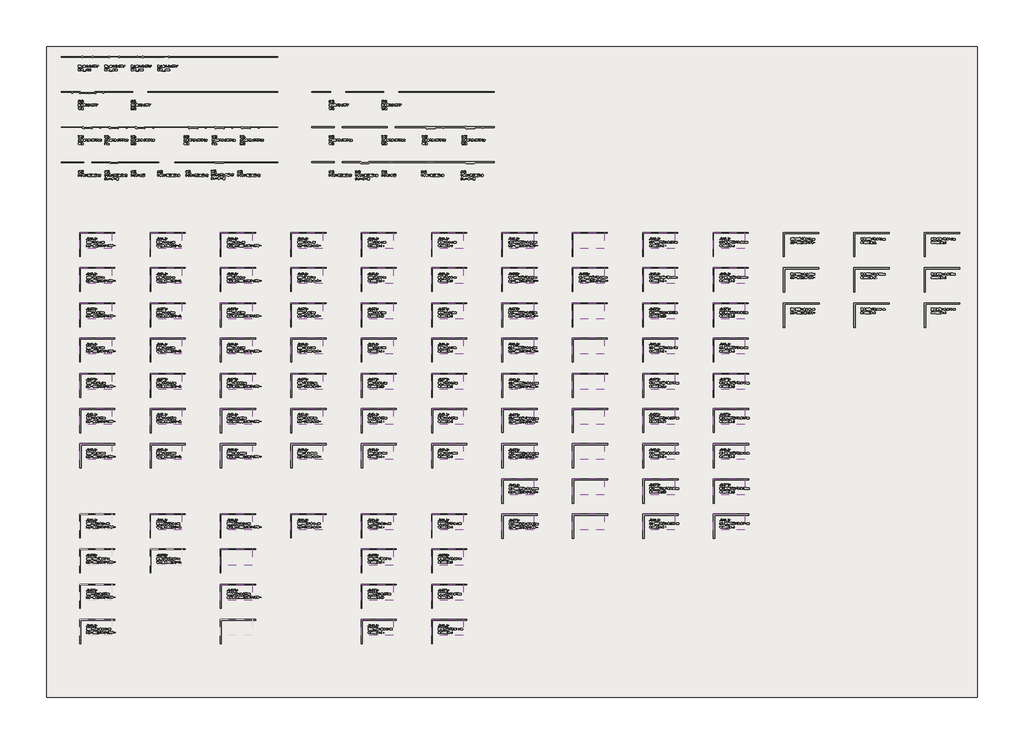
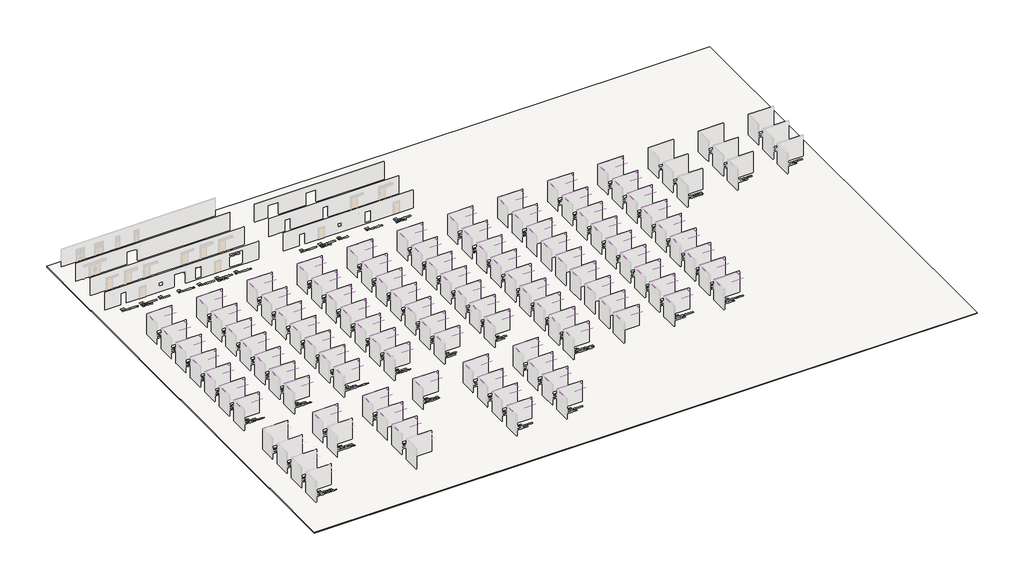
# One storey, part 4 of 117: 91 coverings, 1 slab.
"""IFC4 building model written with IfcOpenShell, lengths in millimetres."""

from ifc_helpers import new_model, si_unit, frame, origin, place, context, project, spatial, polyline, outline, extrude, element, save

model = new_model("IFC4")

# Units and contexts
model_context = context("Model", 3, world=origin())
ifc_project = project(units=[si_unit("LENGTHUNIT", "METRE", prefix="MILLI")], contexts=[model_context])

# Site, building, storey
site = spatial("IfcSite", under=ifc_project)
building = spatial("IfcBuilding", under=site)
storey = spatial("IfcBuildingStorey", under=building, Name="レベル 1", Elevation=500.0)

# Coverings
placement = place(None, origin())
element("IfcCovering", 1, ObjectType="g-p_断熱パネルt44+天井下地材t125_900x2700", at=placement, inside=storey, context=model_context, shape_type="SweptSolid", body=[
    extrude(outline(polyline([(-24000.0, 10178.0), (-24000.0, 12000.0), (-20378.0, 12000.0), (-20378.0, 10178.0), (-24000.0, 10178.0)])), frame((0.0, 0.0, 4000.0), z_axis=(0.0, 0.0, 1.0), x_axis=(1.0, 0.0, 0.0)), (0.0, 0.0, 1.0), 169.0),
])
element("IfcCovering", 2, ObjectType="g-p_断熱パネルt50+天井下地材t125_900x2700", at=placement, inside=storey, context=model_context, shape_type="SweptSolid", body=[
    extrude(outline(polyline([(-24000.0, 6178.0), (-24000.0, 8000.0), (-20378.0, 8000.0), (-20378.0, 6178.0), (-24000.0, 6178.0)])), frame((0.0, 0.0, 4000.0), z_axis=(0.0, 0.0, 1.0), x_axis=(1.0, 0.0, 0.0)), (0.0, 0.0, 1.0), 175.0),
])
element("IfcCovering", 3, ObjectType="g-p_断熱パネルt62+天井下地材t125_900x2700", at=placement, inside=storey, context=model_context, shape_type="SweptSolid", body=[
    extrude(outline(polyline([(-24000.0, 2178.0), (-24000.0, 4000.0), (-20378.0, 4000.0), (-20378.0, 2178.0), (-24000.0, 2178.0)])), frame((0.0, 0.0, 4000.0), z_axis=(0.0, 0.0, 1.0), x_axis=(1.0, 0.0, 0.0)), (0.0, 0.0, 1.0), 187.0),
])
element("IfcCovering", 4, ObjectType="g-p_断熱パネルt77+天井下地材t125_900x2700", at=placement, inside=storey, context=model_context, shape_type="SweptSolid", body=[
    extrude(outline(polyline([(-24000.0, -1822.0), (-24000.0, 0.0), (-20378.0, 0.0), (-20378.0, -1822.0), (-24000.0, -1822.0)])), frame((0.0, 0.0, 4000.0), z_axis=(0.0, 0.0, 1.0), x_axis=(1.0, 0.0, 0.0)), (0.0, 0.0, 1.0), 202.0),
])
element("IfcCovering", 5, ObjectType="g-p_断熱パネルt100+天井下地材t125_900x2700", at=placement, inside=storey, context=model_context, shape_type="SweptSolid", body=[
    extrude(outline(polyline([(-24000.0, -5822.0), (-24000.0, -4000.0), (-20378.0, -4000.0), (-20378.0, -5822.0), (-24000.0, -5822.0)])), frame((0.0, 0.0, 4000.0), z_axis=(0.0, 0.0, 1.0), x_axis=(1.0, 0.0, 0.0)), (0.0, 0.0, 1.0), 225.0),
])
element("IfcCovering", 6, ObjectType="g-p_断熱パネルt127+天井下地材t125_900x2700", at=placement, inside=storey, context=model_context, shape_type="SweptSolid", body=[
    extrude(outline(polyline([(-24000.0, -9822.0), (-24000.0, -8000.0), (-20378.0, -8000.0), (-20378.0, -9822.0), (-24000.0, -9822.0)])), frame((0.0, 0.0, 4000.0), z_axis=(0.0, 0.0, 1.0), x_axis=(1.0, 0.0, 0.0)), (0.0, 0.0, 1.0), 252.0),
])
element("IfcCovering", 7, ObjectType="g-p_断熱パネルt152+天井下地材t125_900x2700", at=placement, inside=storey, context=model_context, shape_type="SweptSolid", body=[
    extrude(outline(polyline([(-24000.0, -13822.0), (-24000.0, -12000.0), (-20378.0, -12000.0), (-20378.0, -13822.0), (-24000.0, -13822.0)])), frame((0.0, 0.0, 4000.0), z_axis=(0.0, 0.0, 1.0), x_axis=(1.0, 0.0, 0.0)), (0.0, 0.0, 1.0), 277.0),
])
element("IfcCovering", 8, ObjectType="g-p_断熱パネルt44+天井下地材t125_900x2700", at=placement, inside=storey, context=model_context, shape_type="SweptSolid", body=[
    extrude(outline(polyline([(-16000.0, 10178.0), (-16000.0, 12000.0), (-12378.0, 12000.0), (-12378.0, 10178.0), (-16000.0, 10178.0)])), frame((0.0, 0.0, 4000.0), z_axis=(0.0, 0.0, 1.0), x_axis=(1.0, 0.0, 0.0)), (0.0, 0.0, 1.0), 169.0),
])
element("IfcCovering", 9, ObjectType="g-p_断熱パネルt50+天井下地材t125_900x2700", at=placement, inside=storey, context=model_context, shape_type="SweptSolid", body=[
    extrude(outline(polyline([(-16000.0, 6178.0), (-16000.0, 8000.0), (-12378.0, 8000.0), (-12378.0, 6178.0), (-16000.0, 6178.0)])), frame((0.0, 0.0, 4000.0), z_axis=(0.0, 0.0, 1.0), x_axis=(1.0, 0.0, 0.0)), (0.0, 0.0, 1.0), 175.0),
])
element("IfcCovering", 10, ObjectType="g-p_断熱パネルt62+天井下地材t125_900x2700", at=placement, inside=storey, context=model_context, shape_type="SweptSolid", body=[
    extrude(outline(polyline([(-16000.0, 2178.0), (-16000.0, 4000.0), (-12378.0, 4000.0), (-12378.0, 2178.0), (-16000.0, 2178.0)])), frame((0.0, 0.0, 4000.0), z_axis=(0.0, 0.0, 1.0), x_axis=(1.0, 0.0, 0.0)), (0.0, 0.0, 1.0), 187.0),
])
element("IfcCovering", 11, ObjectType="g-p_断熱パネルt77+天井下地材t125_900x2700", at=placement, inside=storey, context=model_context, shape_type="SweptSolid", body=[
    extrude(outline(polyline([(-16000.0, -1822.0), (-16000.0, 0.0), (-12378.0, 0.0), (-12378.0, -1822.0), (-16000.0, -1822.0)])), frame((0.0, 0.0, 4000.0), z_axis=(0.0, 0.0, 1.0), x_axis=(1.0, 0.0, 0.0)), (0.0, 0.0, 1.0), 202.0),
])
element("IfcCovering", 12, ObjectType="g-p_断熱パネルt100+天井下地材t125_900x2700", at=placement, inside=storey, context=model_context, shape_type="SweptSolid", body=[
    extrude(outline(polyline([(-16000.0, -5822.0), (-16000.0, -4000.0), (-12378.0, -4000.0), (-12378.0, -5822.0), (-16000.0, -5822.0)])), frame((0.0, 0.0, 4000.0), z_axis=(0.0, 0.0, 1.0), x_axis=(1.0, 0.0, 0.0)), (0.0, 0.0, 1.0), 225.0),
])
element("IfcCovering", 13, ObjectType="g-p_断熱パネルt127+天井下地材t125_900x2700", at=placement, inside=storey, context=model_context, shape_type="SweptSolid", body=[
    extrude(outline(polyline([(-16000.0, -9822.0), (-16000.0, -8000.0), (-12378.0, -8000.0), (-12378.0, -9822.0), (-16000.0, -9822.0)])), frame((0.0, 0.0, 4000.0), z_axis=(0.0, 0.0, 1.0), x_axis=(1.0, 0.0, 0.0)), (0.0, 0.0, 1.0), 252.0),
])
element("IfcCovering", 14, ObjectType="g-p_断熱パネルt152+天井下地材t125_900x2700", at=placement, inside=storey, context=model_context, shape_type="SweptSolid", body=[
    extrude(outline(polyline([(-16000.0, -13822.0), (-16000.0, -12000.0), (-12378.0, -12000.0), (-12378.0, -13822.0), (-16000.0, -13822.0)])), frame((0.0, 0.0, 4000.0), z_axis=(0.0, 0.0, 1.0), x_axis=(1.0, 0.0, 0.0)), (0.0, 0.0, 1.0), 277.0),
])
element("IfcCovering", 15, ObjectType="g-p_不燃断熱パネルt44+天井下地材t125_900x2700", at=placement, inside=storey, context=model_context, shape_type="SweptSolid", body=[
    extrude(outline(polyline([(-16000.0, -21822.0), (-16000.0, -20000.0), (-12378.0, -20000.0), (-12378.0, -21822.0), (-16000.0, -21822.0)])), frame((0.0, 0.0, 4000.0), z_axis=(0.0, 0.0, 1.0), x_axis=(1.0, 0.0, 0.0)), (0.0, 0.0, 1.0), 169.0),
])
element("IfcCovering", 16, ObjectType="g-p_断熱パネルt44+天井下地材t125_900x2700", at=placement, inside=storey, context=model_context, shape_type="SweptSolid", body=[
    extrude(outline(polyline([(-8000.0, 10178.0), (-8000.0, 12000.0), (-4378.0, 12000.0), (-4378.0, 10178.0), (-8000.0, 10178.0)])), frame((0.0, 0.0, 4000.0), z_axis=(0.0, 0.0, 1.0), x_axis=(1.0, 0.0, 0.0)), (0.0, 0.0, 1.0), 169.0),
])
element("IfcCovering", 17, ObjectType="g-p_断熱パネルt50+天井下地材t125_900x2700", at=placement, inside=storey, context=model_context, shape_type="SweptSolid", body=[
    extrude(outline(polyline([(-8000.0, 6178.0), (-8000.0, 8000.0), (-4378.0, 8000.0), (-4378.0, 6178.0), (-8000.0, 6178.0)])), frame((0.0, 0.0, 4000.0), z_axis=(0.0, 0.0, 1.0), x_axis=(1.0, 0.0, 0.0)), (0.0, 0.0, 1.0), 175.0),
])
element("IfcCovering", 18, ObjectType="g-p_断熱パネルt62+天井下地材t125_900x2700", at=placement, inside=storey, context=model_context, shape_type="SweptSolid", body=[
    extrude(outline(polyline([(-8000.0, 2178.0), (-8000.0, 4000.0), (-4378.0, 4000.0), (-4378.0, 2178.0), (-8000.0, 2178.0)])), frame((0.0, 0.0, 4000.0), z_axis=(0.0, 0.0, 1.0), x_axis=(1.0, 0.0, 0.0)), (0.0, 0.0, 1.0), 187.0),
])
element("IfcCovering", 19, ObjectType="g-p_断熱パネルt77+天井下地材t125_900x2700", at=placement, inside=storey, context=model_context, shape_type="SweptSolid", body=[
    extrude(outline(polyline([(-8000.0, -1822.0), (-8000.0, 0.0), (-4378.0, 0.0), (-4378.0, -1822.0), (-8000.0, -1822.0)])), frame((0.0, 0.0, 4000.0), z_axis=(0.0, 0.0, 1.0), x_axis=(1.0, 0.0, 0.0)), (0.0, 0.0, 1.0), 202.0),
])
element("IfcCovering", 20, ObjectType="g-p_断熱パネルt100+天井下地材t125_900x2700", at=placement, inside=storey, context=model_context, shape_type="SweptSolid", body=[
    extrude(outline(polyline([(-8000.0, -5822.0), (-8000.0, -4000.0), (-4378.0, -4000.0), (-4378.0, -5822.0), (-8000.0, -5822.0)])), frame((0.0, 0.0, 4000.0), z_axis=(0.0, 0.0, 1.0), x_axis=(1.0, 0.0, 0.0)), (0.0, 0.0, 1.0), 225.0),
])
element("IfcCovering", 21, ObjectType="g-p_断熱パネルt127+天井下地材t125_900x2700", at=placement, inside=storey, context=model_context, shape_type="SweptSolid", body=[
    extrude(outline(polyline([(-8000.0, -9822.0), (-8000.0, -8000.0), (-4378.0, -8000.0), (-4378.0, -9822.0), (-8000.0, -9822.0)])), frame((0.0, 0.0, 4000.0), z_axis=(0.0, 0.0, 1.0), x_axis=(1.0, 0.0, 0.0)), (0.0, 0.0, 1.0), 252.0),
])
element("IfcCovering", 22, ObjectType="g-p_断熱パネルt152+天井下地材t125_900x2700", at=placement, inside=storey, context=model_context, shape_type="SweptSolid", body=[
    extrude(outline(polyline([(-8000.0, -13822.0), (-8000.0, -12000.0), (-4378.0, -12000.0), (-4378.0, -13822.0), (-8000.0, -13822.0)])), frame((0.0, 0.0, 4000.0), z_axis=(0.0, 0.0, 1.0), x_axis=(1.0, 0.0, 0.0)), (0.0, 0.0, 1.0), 277.0),
])
element("IfcCovering", 23, ObjectType="g-p_不燃断熱パネルt44+天井下地材t125_900x2700", at=placement, inside=storey, context=model_context, shape_type="SweptSolid", body=[
    extrude(outline(polyline([(-8000.0, -21822.0), (-8000.0, -20000.0), (-4378.0, -20000.0), (-4378.0, -21822.0), (-8000.0, -21822.0)])), frame((0.0, 0.0, 4000.0), z_axis=(0.0, 0.0, 1.0), x_axis=(1.0, 0.0, 0.0)), (0.0, 0.0, 1.0), 169.0),
])
element("IfcCovering", 24, ObjectType="g-p_不燃断熱パネルt50+天井下地材t125_900x2700", at=placement, inside=storey, context=model_context, shape_type="SweptSolid", body=[
    extrude(outline(polyline([(-8000.0, -25822.0), (-8000.0, -24000.0), (-4378.0, -24000.0), (-4378.0, -25822.0), (-8000.0, -25822.0)])), frame((0.0, 0.0, 4000.0), z_axis=(0.0, 0.0, 1.0), x_axis=(1.0, 0.0, 0.0)), (0.0, 0.0, 1.0), 175.0),
])
element("IfcCovering", 25, ObjectType="g-p_不燃断熱パネルt77+天井下地材t125_900x2700", at=placement, inside=storey, context=model_context, shape_type="SweptSolid", body=[
    extrude(outline(polyline([(-8000.0, -29822.0), (-8000.0, -28000.0), (-4378.0, -28000.0), (-4378.0, -29822.0), (-8000.0, -29822.0)])), frame((0.0, 0.0, 4000.0), z_axis=(0.0, 0.0, 1.0), x_axis=(1.0, 0.0, 0.0)), (0.0, 0.0, 1.0), 202.0),
])
element("IfcCovering", 26, ObjectType="g-p_断熱パネルt44+天井下地材t125_900x2700", at=placement, inside=storey, context=model_context, shape_type="SweptSolid", body=[
    extrude(outline(polyline([(0.0, 10178.0), (0.0, 12000.0), (3622.0, 12000.0), (3622.0, 10178.0), (0.0, 10178.0)])), frame((0.0, 0.0, 4000.0), z_axis=(0.0, 0.0, 1.0), x_axis=(1.0, 0.0, 0.0)), (0.0, 0.0, 1.0), 169.0),
])
element("IfcCovering", 27, ObjectType="g-p_断熱パネルt50+天井下地材t125_900x2700", at=placement, inside=storey, context=model_context, shape_type="SweptSolid", body=[
    extrude(outline(polyline([(0.0, 6178.0), (0.0, 8000.0), (3622.0, 8000.0), (3622.0, 6178.0), (0.0, 6178.0)])), frame((0.0, 0.0, 4000.0), z_axis=(0.0, 0.0, 1.0), x_axis=(1.0, 0.0, 0.0)), (0.0, 0.0, 1.0), 175.0),
])
element("IfcCovering", 28, ObjectType="g-p_断熱パネルt62+天井下地材t125_900x2700", at=placement, inside=storey, context=model_context, shape_type="SweptSolid", body=[
    extrude(outline(polyline([(0.0, 2178.0), (0.0, 4000.0), (3622.0, 4000.0), (3622.0, 2178.0), (0.0, 2178.0)])), frame((0.0, 0.0, 4000.0), z_axis=(0.0, 0.0, 1.0), x_axis=(1.0, 0.0, 0.0)), (0.0, 0.0, 1.0), 187.0),
])
element("IfcCovering", 29, ObjectType="g-p_断熱パネルt77+天井下地材t125_900x2700", at=placement, inside=storey, context=model_context, shape_type="SweptSolid", body=[
    extrude(outline(polyline([(0.0, -1822.0), (0.0, 0.0), (3622.0, 0.0), (3622.0, -1822.0), (0.0, -1822.0)])), frame((0.0, 0.0, 4000.0), z_axis=(0.0, 0.0, 1.0), x_axis=(1.0, 0.0, 0.0)), (0.0, 0.0, 1.0), 202.0),
])
element("IfcCovering", 30, ObjectType="g-p_断熱パネルt100+天井下地材t125_900x2700", at=placement, inside=storey, context=model_context, shape_type="SweptSolid", body=[
    extrude(outline(polyline([(0.0, -5822.0), (0.0, -4000.0), (3622.0, -4000.0), (3622.0, -5822.0), (0.0, -5822.0)])), frame((0.0, 0.0, 4000.0), z_axis=(0.0, 0.0, 1.0), x_axis=(1.0, 0.0, 0.0)), (0.0, 0.0, 1.0), 225.0),
])
element("IfcCovering", 31, ObjectType="g-p_断熱パネルt127+天井下地材t125_900x2700", at=placement, inside=storey, context=model_context, shape_type="SweptSolid", body=[
    extrude(outline(polyline([(0.0, -9822.0), (0.0, -8000.0), (3622.0, -8000.0), (3622.0, -9822.0), (0.0, -9822.0)])), frame((0.0, 0.0, 4000.0), z_axis=(0.0, 0.0, 1.0), x_axis=(1.0, 0.0, 0.0)), (0.0, 0.0, 1.0), 252.0),
])
element("IfcCovering", 32, ObjectType="g-p_断熱パネルt152+天井下地材t125_900x2700", at=placement, inside=storey, context=model_context, shape_type="SweptSolid", body=[
    extrude(outline(polyline([(0.0, -13822.0), (0.0, -12000.0), (3622.0, -12000.0), (3622.0, -13822.0), (0.0, -13822.0)])), frame((0.0, 0.0, 4000.0), z_axis=(0.0, 0.0, 1.0), x_axis=(1.0, 0.0, 0.0)), (0.0, 0.0, 1.0), 277.0),
])
element("IfcCovering", 33, ObjectType="g-p_不燃断熱パネルt44+天井下地材t125_900x2700", at=placement, inside=storey, context=model_context, shape_type="SweptSolid", body=[
    extrude(outline(polyline([(0.0, -21822.0), (0.0, -20000.0), (3622.0, -20000.0), (3622.0, -21822.0), (0.0, -21822.0)])), frame((0.0, 0.0, 4000.0), z_axis=(0.0, 0.0, 1.0), x_axis=(1.0, 0.0, 0.0)), (0.0, 0.0, 1.0), 169.0),
])
element("IfcCovering", 34, ObjectType="g-p_断熱パネルt44+天井下地材t125_900x2700", at=placement, inside=storey, context=model_context, shape_type="SweptSolid", body=[
    extrude(outline(polyline([(8000.0, 10178.0), (8000.0, 12000.0), (11622.0, 12000.0), (11622.0, 10178.0), (8000.0, 10178.0)])), frame((0.0, 0.0, 4000.0), z_axis=(0.0, 0.0, 1.0), x_axis=(1.0, 0.0, 0.0)), (0.0, 0.0, 1.0), 169.0),
])
element("IfcCovering", 35, ObjectType="g-p_断熱パネルt50+天井下地材t125_900x2700", at=placement, inside=storey, context=model_context, shape_type="SweptSolid", body=[
    extrude(outline(polyline([(8000.0, 6178.0), (8000.0, 8000.0), (11622.0, 8000.0), (11622.0, 6178.0), (8000.0, 6178.0)])), frame((0.0, 0.0, 4000.0), z_axis=(0.0, 0.0, 1.0), x_axis=(1.0, 0.0, 0.0)), (0.0, 0.0, 1.0), 175.0),
])
element("IfcCovering", 36, ObjectType="g-p_断熱パネルt62+天井下地材t125_900x2700", at=placement, inside=storey, context=model_context, shape_type="SweptSolid", body=[
    extrude(outline(polyline([(8000.0, 2178.0), (8000.0, 4000.0), (11622.0, 4000.0), (11622.0, 2178.0), (8000.0, 2178.0)])), frame((0.0, 0.0, 4000.0), z_axis=(0.0, 0.0, 1.0), x_axis=(1.0, 0.0, 0.0)), (0.0, 0.0, 1.0), 187.0),
])
element("IfcCovering", 37, ObjectType="g-p_断熱パネルt77+天井下地材t125_900x2700", at=placement, inside=storey, context=model_context, shape_type="SweptSolid", body=[
    extrude(outline(polyline([(8000.0, -1822.0), (8000.0, 0.0), (11622.0, 0.0), (11622.0, -1822.0), (8000.0, -1822.0)])), frame((0.0, 0.0, 4000.0), z_axis=(0.0, 0.0, 1.0), x_axis=(1.0, 0.0, 0.0)), (0.0, 0.0, 1.0), 202.0),
])
element("IfcCovering", 38, ObjectType="g-p_断熱パネルt100+天井下地材t125_900x2700", at=placement, inside=storey, context=model_context, shape_type="SweptSolid", body=[
    extrude(outline(polyline([(8000.0, -5822.0), (8000.0, -4000.0), (11622.0, -4000.0), (11622.0, -5822.0), (8000.0, -5822.0)])), frame((0.0, 0.0, 4000.0), z_axis=(0.0, 0.0, 1.0), x_axis=(1.0, 0.0, 0.0)), (0.0, 0.0, 1.0), 225.0),
])
element("IfcCovering", 39, ObjectType="g-p_断熱パネルt127+天井下地材t125_900x2700", at=placement, inside=storey, context=model_context, shape_type="SweptSolid", body=[
    extrude(outline(polyline([(8000.0, -9822.0), (8000.0, -8000.0), (11622.0, -8000.0), (11622.0, -9822.0), (8000.0, -9822.0)])), frame((0.0, 0.0, 4000.0), z_axis=(0.0, 0.0, 1.0), x_axis=(1.0, 0.0, 0.0)), (0.0, 0.0, 1.0), 252.0),
])
element("IfcCovering", 40, ObjectType="g-p_断熱パネルt152+天井下地材t125_900x2700", at=placement, inside=storey, context=model_context, shape_type="SweptSolid", body=[
    extrude(outline(polyline([(8000.0, -13822.0), (8000.0, -12000.0), (11622.0, -12000.0), (11622.0, -13822.0), (8000.0, -13822.0)])), frame((0.0, 0.0, 4000.0), z_axis=(0.0, 0.0, 1.0), x_axis=(1.0, 0.0, 0.0)), (0.0, 0.0, 1.0), 277.0),
])
element("IfcCovering", 41, ObjectType="g-p_不燃断熱パネルt44+天井下地材t125_900x2700", at=placement, inside=storey, context=model_context, shape_type="SweptSolid", body=[
    extrude(outline(polyline([(8000.0, -21822.0), (8000.0, -20000.0), (11622.0, -20000.0), (11622.0, -21822.0), (8000.0, -21822.0)])), frame((0.0, 0.0, 4000.0), z_axis=(0.0, 0.0, 1.0), x_axis=(1.0, 0.0, 0.0)), (0.0, 0.0, 1.0), 169.0),
])
element("IfcCovering", 42, ObjectType="g-p_不燃断熱パネルt50+天井下地材t125_900x2700", at=placement, inside=storey, context=model_context, shape_type="SweptSolid", body=[
    extrude(outline(polyline([(8000.0, -25822.0), (8000.0, -24000.0), (11622.0, -24000.0), (11622.0, -25822.0), (8000.0, -25822.0)])), frame((0.0, 0.0, 4000.0), z_axis=(0.0, 0.0, 1.0), x_axis=(1.0, 0.0, 0.0)), (0.0, 0.0, 1.0), 175.0),
])
element("IfcCovering", 43, ObjectType="g-p_不燃断熱パネルt77+天井下地材t125_900x2700", at=placement, inside=storey, context=model_context, shape_type="SweptSolid", body=[
    extrude(outline(polyline([(8000.0, -29822.0), (8000.0, -28000.0), (11622.0, -28000.0), (11622.0, -29822.0), (8000.0, -29822.0)])), frame((0.0, 0.0, 4000.0), z_axis=(0.0, 0.0, 1.0), x_axis=(1.0, 0.0, 0.0)), (0.0, 0.0, 1.0), 202.0),
])
element("IfcCovering", 44, ObjectType="g-p_不燃断熱パネルt100+天井下地材t125_900x2700", at=placement, inside=storey, context=model_context, shape_type="SweptSolid", body=[
    extrude(outline(polyline([(8000.0, -33822.0), (8000.0, -32000.0), (11622.0, -32000.0), (11622.0, -33822.0), (8000.0, -33822.0)])), frame((0.0, 0.0, 4000.0), z_axis=(0.0, 0.0, 1.0), x_axis=(1.0, 0.0, 0.0)), (0.0, 0.0, 1.0), 225.0),
])
element("IfcCovering", 45, ObjectType="g-p_断熱パネルt44+天井下地材t125_900x2700", at=placement, inside=storey, context=model_context, shape_type="SweptSolid", body=[
    extrude(outline(polyline([(16000.0, 10178.0), (16000.0, 12000.0), (19622.0, 12000.0), (19622.0, 10178.0), (16000.0, 10178.0)])), frame((0.0, 0.0, 4000.0), z_axis=(0.0, 0.0, 1.0), x_axis=(1.0, 0.0, 0.0)), (0.0, 0.0, 1.0), 169.0),
])
element("IfcCovering", 46, ObjectType="g-p_断熱パネルt50+天井下地材t125_900x2700", at=placement, inside=storey, context=model_context, shape_type="SweptSolid", body=[
    extrude(outline(polyline([(16000.0, 6178.0), (16000.0, 8000.0), (19622.0, 8000.0), (19622.0, 6178.0), (16000.0, 6178.0)])), frame((0.0, 0.0, 4000.0), z_axis=(0.0, 0.0, 1.0), x_axis=(1.0, 0.0, 0.0)), (0.0, 0.0, 1.0), 175.0),
])
element("IfcCovering", 47, ObjectType="g-p_断熱パネルt62+天井下地材t125_900x2700", at=placement, inside=storey, context=model_context, shape_type="SweptSolid", body=[
    extrude(outline(polyline([(16000.0, 2178.0), (16000.0, 4000.0), (19622.0, 4000.0), (19622.0, 2178.0), (16000.0, 2178.0)])), frame((0.0, 0.0, 4000.0), z_axis=(0.0, 0.0, 1.0), x_axis=(1.0, 0.0, 0.0)), (0.0, 0.0, 1.0), 187.0),
])
element("IfcCovering", 48, ObjectType="g-p_断熱パネルt77+天井下地材t125_900x2700", at=placement, inside=storey, context=model_context, shape_type="SweptSolid", body=[
    extrude(outline(polyline([(16000.0, -1822.0), (16000.0, 0.0), (19622.0, 0.0), (19622.0, -1822.0), (16000.0, -1822.0)])), frame((0.0, 0.0, 4000.0), z_axis=(0.0, 0.0, 1.0), x_axis=(1.0, 0.0, 0.0)), (0.0, 0.0, 1.0), 202.0),
])
element("IfcCovering", 49, ObjectType="g-p_断熱パネルt100+天井下地材t125_900x2700", at=placement, inside=storey, context=model_context, shape_type="SweptSolid", body=[
    extrude(outline(polyline([(16000.0, -5822.0), (16000.0, -4000.0), (19622.0, -4000.0), (19622.0, -5822.0), (16000.0, -5822.0)])), frame((0.0, 0.0, 4000.0), z_axis=(0.0, 0.0, 1.0), x_axis=(1.0, 0.0, 0.0)), (0.0, 0.0, 1.0), 225.0),
])
element("IfcCovering", 50, ObjectType="g-p_断熱パネルt127+天井下地材t125_900x2700", at=placement, inside=storey, context=model_context, shape_type="SweptSolid", body=[
    extrude(outline(polyline([(16000.0, -9822.0), (16000.0, -8000.0), (19622.0, -8000.0), (19622.0, -9822.0), (16000.0, -9822.0)])), frame((0.0, 0.0, 4000.0), z_axis=(0.0, 0.0, 1.0), x_axis=(1.0, 0.0, 0.0)), (0.0, 0.0, 1.0), 252.0),
])
element("IfcCovering", 51, ObjectType="g-p_断熱パネルt152+天井下地材t125_900x2700", at=placement, inside=storey, context=model_context, shape_type="SweptSolid", body=[
    extrude(outline(polyline([(16000.0, -13822.0), (16000.0, -12000.0), (19622.0, -12000.0), (19622.0, -13822.0), (16000.0, -13822.0)])), frame((0.0, 0.0, 4000.0), z_axis=(0.0, 0.0, 1.0), x_axis=(1.0, 0.0, 0.0)), (0.0, 0.0, 1.0), 277.0),
])
element("IfcCovering", 52, ObjectType="g-p_不燃断熱パネルt44+天井下地材t125_900x2700", at=placement, inside=storey, context=model_context, shape_type="SweptSolid", body=[
    extrude(outline(polyline([(16000.0, -21822.0), (16000.0, -20000.0), (19622.0, -20000.0), (19622.0, -21822.0), (16000.0, -21822.0)])), frame((0.0, 0.0, 4000.0), z_axis=(0.0, 0.0, 1.0), x_axis=(1.0, 0.0, 0.0)), (0.0, 0.0, 1.0), 169.0),
])
element("IfcCovering", 53, ObjectType="g-p_不燃断熱パネルt50+天井下地材t125_900x2700", at=placement, inside=storey, context=model_context, shape_type="SweptSolid", body=[
    extrude(outline(polyline([(16000.0, -25822.0), (16000.0, -24000.0), (19622.0, -24000.0), (19622.0, -25822.0), (16000.0, -25822.0)])), frame((0.0, 0.0, 4000.0), z_axis=(0.0, 0.0, 1.0), x_axis=(1.0, 0.0, 0.0)), (0.0, 0.0, 1.0), 175.0),
])
element("IfcCovering", 54, ObjectType="g-p_不燃断熱パネルt77+天井下地材t125_900x2700", at=placement, inside=storey, context=model_context, shape_type="SweptSolid", body=[
    extrude(outline(polyline([(16000.0, -29822.0), (16000.0, -28000.0), (19622.0, -28000.0), (19622.0, -29822.0), (16000.0, -29822.0)])), frame((0.0, 0.0, 4000.0), z_axis=(0.0, 0.0, 1.0), x_axis=(1.0, 0.0, 0.0)), (0.0, 0.0, 1.0), 202.0),
])
element("IfcCovering", 55, ObjectType="g-p_不燃断熱パネルt100+天井下地材t125_900x2700", at=placement, inside=storey, context=model_context, shape_type="SweptSolid", body=[
    extrude(outline(polyline([(16000.0, -33822.0), (16000.0, -32000.0), (19622.0, -32000.0), (19622.0, -33822.0), (16000.0, -33822.0)])), frame((0.0, 0.0, 4000.0), z_axis=(0.0, 0.0, 1.0), x_axis=(1.0, 0.0, 0.0)), (0.0, 0.0, 1.0), 225.0),
])
element("IfcCovering", 56, ObjectType="g-p_ECO不燃断熱パネルt52+天井下地材t125_900x2700", at=placement, inside=storey, context=model_context, shape_type="SweptSolid", body=[
    extrude(outline(polyline([(24000.0, 6178.0), (24000.0, 8000.0), (27622.0, 8000.0), (27622.0, 6178.0), (24000.0, 6178.0)])), frame((0.0, 0.0, 4000.0), z_axis=(0.0, 0.0, 1.0), x_axis=(1.0, 0.0, 0.0)), (0.0, 0.0, 1.0), 177.0),
])
element("IfcCovering", 57, ObjectType="g-p_ECO不燃断熱パネルt68+天井下地材t125_900x2700", at=placement, inside=storey, context=model_context, shape_type="SweptSolid", body=[
    extrude(outline(polyline([(24000.0, 2178.0), (24000.0, 4000.0), (27622.0, 4000.0), (27622.0, 2178.0), (24000.0, 2178.0)])), frame((0.0, 0.0, 4000.0), z_axis=(0.0, 0.0, 1.0), x_axis=(1.0, 0.0, 0.0)), (0.0, 0.0, 1.0), 193.0),
])
element("IfcCovering", 58, ObjectType="g-p_ECO不燃断熱パネルt87+天井下地材t125_900x2700", at=placement, inside=storey, context=model_context, shape_type="SweptSolid", body=[
    extrude(outline(polyline([(24000.0, -1822.0), (24000.0, 0.0), (27622.0, 0.0), (27622.0, -1822.0), (24000.0, -1822.0)])), frame((0.0, 0.0, 4000.0), z_axis=(0.0, 0.0, 1.0), x_axis=(1.0, 0.0, 0.0)), (0.0, 0.0, 1.0), 212.0),
])
element("IfcCovering", 59, ObjectType="g-p_ECO不燃断熱パネルt102+天井下地材t125_900x2700", at=placement, inside=storey, context=model_context, shape_type="SweptSolid", body=[
    extrude(outline(polyline([(24000.0, -5822.0), (24000.0, -4000.0), (27622.0, -4000.0), (27622.0, -5822.0), (24000.0, -5822.0)])), frame((0.0, 0.0, 4000.0), z_axis=(0.0, 0.0, 1.0), x_axis=(1.0, 0.0, 0.0)), (0.0, 0.0, 1.0), 227.0),
])
element("IfcCovering", 60, ObjectType="g-p_ECO不燃断熱パネルt118+天井下地材t125_900x2700", at=placement, inside=storey, context=model_context, shape_type="SweptSolid", body=[
    extrude(outline(polyline([(24000.0, -9822.0), (24000.0, -8000.0), (27622.0, -8000.0), (27622.0, -9822.0), (24000.0, -9822.0)])), frame((0.0, 0.0, 4000.0), z_axis=(0.0, 0.0, 1.0), x_axis=(1.0, 0.0, 0.0)), (0.0, 0.0, 1.0), 243.0),
])
element("IfcCovering", 61, ObjectType="g-p_ECO不燃断熱パネルt134+天井下地材t125_900x2700", at=placement, inside=storey, context=model_context, shape_type="SweptSolid", body=[
    extrude(outline(polyline([(24000.0, -13822.0), (24000.0, -12000.0), (27622.0, -12000.0), (27622.0, -13822.0), (24000.0, -13822.0)])), frame((0.0, 0.0, 4000.0), z_axis=(0.0, 0.0, 1.0), x_axis=(1.0, 0.0, 0.0)), (0.0, 0.0, 1.0), 259.0),
])
element("IfcCovering", 62, ObjectType="g-p_ECO不燃断熱パネルt152+天井下地材t125_900x2700", at=placement, inside=storey, context=model_context, shape_type="SweptSolid", body=[
    extrude(outline(polyline([(24000.0, -17822.0), (24000.0, -16000.0), (27622.0, -16000.0), (27622.0, -17822.0), (24000.0, -17822.0)])), frame((0.0, 0.0, 4000.0), z_axis=(0.0, 0.0, 1.0), x_axis=(1.0, 0.0, 0.0)), (0.0, 0.0, 1.0), 277.0),
])
element("IfcCovering", 63, ObjectType="g-p_ECO不燃断熱パネルt168+天井下地材t125_900x2700", at=placement, inside=storey, context=model_context, shape_type="SweptSolid", body=[
    extrude(outline(polyline([(24000.0, -21822.0), (24000.0, -20000.0), (27622.0, -20000.0), (27622.0, -21822.0), (24000.0, -21822.0)])), frame((0.0, 0.0, 4000.0), z_axis=(0.0, 0.0, 1.0), x_axis=(1.0, 0.0, 0.0)), (0.0, 0.0, 1.0), 293.0),
])
element("IfcCovering", 64, ObjectType="g-p_ECO不燃断熱パネルt52+天井下地材t125_900x2700", at=placement, inside=storey, context=model_context, shape_type="SweptSolid", body=[
    extrude(outline(polyline([(24000.0, 10178.0), (24000.0, 12000.0), (27622.0, 12000.0), (27622.0, 10178.0), (24000.0, 10178.0)])), frame((0.0, 0.0, 4000.0), z_axis=(0.0, 0.0, 1.0), x_axis=(1.0, 0.0, 0.0)), (0.0, 0.0, 1.0), 177.0),
])
element("IfcCovering", 65, ObjectType="g-p_ECO不燃断熱パネルt52+天井下地材t125_900x2700", at=placement, inside=storey, context=model_context, shape_type="SweptSolid", body=[
    extrude(outline(polyline([(32000.0, 6178.0), (32000.0, 8000.0), (35622.0, 8000.0), (35622.0, 6178.0), (32000.0, 6178.0)])), frame((0.0, 0.0, 4000.0), z_axis=(0.0, 0.0, 1.0), x_axis=(1.0, 0.0, 0.0)), (0.0, 0.0, 1.0), 177.0),
])
element("IfcCovering", 66, ObjectType="g-p_ECO不燃断熱パネルt68+天井下地材t125_900x2700", at=placement, inside=storey, context=model_context, shape_type="SweptSolid", body=[
    extrude(outline(polyline([(32000.0, 2178.0), (32000.0, 4000.0), (35622.0, 4000.0), (35622.0, 2178.0), (32000.0, 2178.0)])), frame((0.0, 0.0, 4000.0), z_axis=(0.0, 0.0, 1.0), x_axis=(1.0, 0.0, 0.0)), (0.0, 0.0, 1.0), 193.0),
])
element("IfcCovering", 67, ObjectType="g-p_ECO不燃断熱パネルt87+天井下地材t125_900x2700", at=placement, inside=storey, context=model_context, shape_type="SweptSolid", body=[
    extrude(outline(polyline([(32000.0, -1822.0), (32000.0, 0.0), (35622.0, 0.0), (35622.0, -1822.0), (32000.0, -1822.0)])), frame((0.0, 0.0, 4000.0), z_axis=(0.0, 0.0, 1.0), x_axis=(1.0, 0.0, 0.0)), (0.0, 0.0, 1.0), 212.0),
])
element("IfcCovering", 68, ObjectType="g-p_ECO不燃断熱パネルt102+天井下地材t125_900x2700", at=placement, inside=storey, context=model_context, shape_type="SweptSolid", body=[
    extrude(outline(polyline([(32000.0, -5822.0), (32000.0, -4000.0), (35622.0, -4000.0), (35622.0, -5822.0), (32000.0, -5822.0)])), frame((0.0, 0.0, 4000.0), z_axis=(0.0, 0.0, 1.0), x_axis=(1.0, 0.0, 0.0)), (0.0, 0.0, 1.0), 227.0),
])
element("IfcCovering", 69, ObjectType="g-p_ECO不燃断熱パネルt118+天井下地材t125_900x2700", at=placement, inside=storey, context=model_context, shape_type="SweptSolid", body=[
    extrude(outline(polyline([(32000.0, -9822.0), (32000.0, -8000.0), (35622.0, -8000.0), (35622.0, -9822.0), (32000.0, -9822.0)])), frame((0.0, 0.0, 4000.0), z_axis=(0.0, 0.0, 1.0), x_axis=(1.0, 0.0, 0.0)), (0.0, 0.0, 1.0), 243.0),
])
element("IfcCovering", 70, ObjectType="g-p_ECO不燃断熱パネルt134+天井下地材t125_900x2700", at=placement, inside=storey, context=model_context, shape_type="SweptSolid", body=[
    extrude(outline(polyline([(32000.0, -13822.0), (32000.0, -12000.0), (35622.0, -12000.0), (35622.0, -13822.0), (32000.0, -13822.0)])), frame((0.0, 0.0, 4000.0), z_axis=(0.0, 0.0, 1.0), x_axis=(1.0, 0.0, 0.0)), (0.0, 0.0, 1.0), 259.0),
])
element("IfcCovering", 71, ObjectType="g-p_ECO不燃断熱パネルt152+天井下地材t125_900x2700", at=placement, inside=storey, context=model_context, shape_type="SweptSolid", body=[
    extrude(outline(polyline([(32000.0, -17822.0), (32000.0, -16000.0), (35622.0, -16000.0), (35622.0, -17822.0), (32000.0, -17822.0)])), frame((0.0, 0.0, 4000.0), z_axis=(0.0, 0.0, 1.0), x_axis=(1.0, 0.0, 0.0)), (0.0, 0.0, 1.0), 277.0),
])
element("IfcCovering", 72, ObjectType="g-p_ECO不燃断熱パネルt168+天井下地材t125_900x2700", at=placement, inside=storey, context=model_context, shape_type="SweptSolid", body=[
    extrude(outline(polyline([(32000.0, -21822.0), (32000.0, -20000.0), (35622.0, -20000.0), (35622.0, -21822.0), (32000.0, -21822.0)])), frame((0.0, 0.0, 4000.0), z_axis=(0.0, 0.0, 1.0), x_axis=(1.0, 0.0, 0.0)), (0.0, 0.0, 1.0), 293.0),
])
element("IfcCovering", 73, ObjectType="g-p_ECO不燃断熱パネルt52+天井下地材t125_900x2700", at=placement, inside=storey, context=model_context, shape_type="SweptSolid", body=[
    extrude(outline(polyline([(32000.0, 10178.0), (32000.0, 12000.0), (35622.0, 12000.0), (35622.0, 10178.0), (32000.0, 10178.0)])), frame((0.0, 0.0, 4000.0), z_axis=(0.0, 0.0, 1.0), x_axis=(1.0, 0.0, 0.0)), (0.0, 0.0, 1.0), 177.0),
])
element("IfcCovering", 74, ObjectType="g-p_ECO不燃断熱パネルt52+天井下地材t125_900x2700", at=placement, inside=storey, context=model_context, shape_type="SweptSolid", body=[
    extrude(outline(polyline([(40000.0, 6178.0), (40000.0, 8000.0), (43622.0, 8000.0), (43622.0, 6178.0), (40000.0, 6178.0)])), frame((0.0, 0.0, 4000.0), z_axis=(0.0, 0.0, 1.0), x_axis=(1.0, 0.0, 0.0)), (0.0, 0.0, 1.0), 177.0),
])
element("IfcCovering", 75, ObjectType="g-p_ECO不燃断熱パネルt68+天井下地材t125_900x2700", at=placement, inside=storey, context=model_context, shape_type="SweptSolid", body=[
    extrude(outline(polyline([(40000.0, 2178.0), (40000.0, 4000.0), (43622.0, 4000.0), (43622.0, 2178.0), (40000.0, 2178.0)])), frame((0.0, 0.0, 4000.0), z_axis=(0.0, 0.0, 1.0), x_axis=(1.0, 0.0, 0.0)), (0.0, 0.0, 1.0), 193.0),
])
element("IfcCovering", 76, ObjectType="g-p_ECO不燃断熱パネルt87+天井下地材t125_900x2700", at=placement, inside=storey, context=model_context, shape_type="SweptSolid", body=[
    extrude(outline(polyline([(40000.0, -1822.0), (40000.0, 0.0), (43622.0, 0.0), (43622.0, -1822.0), (40000.0, -1822.0)])), frame((0.0, 0.0, 4000.0), z_axis=(0.0, 0.0, 1.0), x_axis=(1.0, 0.0, 0.0)), (0.0, 0.0, 1.0), 212.0),
])
element("IfcCovering", 77, ObjectType="g-p_ECO不燃断熱パネルt102+天井下地材t125_900x2700", at=placement, inside=storey, context=model_context, shape_type="SweptSolid", body=[
    extrude(outline(polyline([(40000.0, -5822.0), (40000.0, -4000.0), (43622.0, -4000.0), (43622.0, -5822.0), (40000.0, -5822.0)])), frame((0.0, 0.0, 4000.0), z_axis=(0.0, 0.0, 1.0), x_axis=(1.0, 0.0, 0.0)), (0.0, 0.0, 1.0), 227.0),
])
element("IfcCovering", 78, ObjectType="g-p_ECO不燃断熱パネルt118+天井下地材t125_900x2700", at=placement, inside=storey, context=model_context, shape_type="SweptSolid", body=[
    extrude(outline(polyline([(40000.0, -9822.0), (40000.0, -8000.0), (43622.0, -8000.0), (43622.0, -9822.0), (40000.0, -9822.0)])), frame((0.0, 0.0, 4000.0), z_axis=(0.0, 0.0, 1.0), x_axis=(1.0, 0.0, 0.0)), (0.0, 0.0, 1.0), 243.0),
])
element("IfcCovering", 79, ObjectType="g-p_ECO不燃断熱パネルt134+天井下地材t125_900x2700", at=placement, inside=storey, context=model_context, shape_type="SweptSolid", body=[
    extrude(outline(polyline([(40000.0, -13822.0), (40000.0, -12000.0), (43622.0, -12000.0), (43622.0, -13822.0), (40000.0, -13822.0)])), frame((0.0, 0.0, 4000.0), z_axis=(0.0, 0.0, 1.0), x_axis=(1.0, 0.0, 0.0)), (0.0, 0.0, 1.0), 259.0),
])
element("IfcCovering", 80, ObjectType="g-p_ECO不燃断熱パネルt152+天井下地材t125_900x2700", at=placement, inside=storey, context=model_context, shape_type="SweptSolid", body=[
    extrude(outline(polyline([(40000.0, -17822.0), (40000.0, -16000.0), (43622.0, -16000.0), (43622.0, -17822.0), (40000.0, -17822.0)])), frame((0.0, 0.0, 4000.0), z_axis=(0.0, 0.0, 1.0), x_axis=(1.0, 0.0, 0.0)), (0.0, 0.0, 1.0), 277.0),
])
element("IfcCovering", 81, ObjectType="g-p_ECO不燃断熱パネルt168+天井下地材t125_900x2700", at=placement, inside=storey, context=model_context, shape_type="SweptSolid", body=[
    extrude(outline(polyline([(40000.0, -21822.0), (40000.0, -20000.0), (43622.0, -20000.0), (43622.0, -21822.0), (40000.0, -21822.0)])), frame((0.0, 0.0, 4000.0), z_axis=(0.0, 0.0, 1.0), x_axis=(1.0, 0.0, 0.0)), (0.0, 0.0, 1.0), 293.0),
])
element("IfcCovering", 82, ObjectType="g-p_ECO不燃断熱パネルt52+天井下地材t125_900x2700", at=placement, inside=storey, context=model_context, shape_type="SweptSolid", body=[
    extrude(outline(polyline([(40000.0, 10178.0), (40000.0, 12000.0), (43622.0, 12000.0), (43622.0, 10178.0), (40000.0, 10178.0)])), frame((0.0, 0.0, 4000.0), z_axis=(0.0, 0.0, 1.0), x_axis=(1.0, 0.0, 0.0)), (0.0, 0.0, 1.0), 177.0),
])
element("IfcCovering", 83, ObjectType="g-p_ECO不燃断熱パネルt52+天井下地材t125_900x2700", at=placement, inside=storey, context=model_context, shape_type="SweptSolid", body=[
    extrude(outline(polyline([(48000.0, 6178.0), (48000.0, 8000.0), (51622.0, 8000.0), (51622.0, 6178.0), (48000.0, 6178.0)])), frame((0.0, 0.0, 4000.0), z_axis=(0.0, 0.0, 1.0), x_axis=(1.0, 0.0, 0.0)), (0.0, 0.0, 1.0), 177.0),
])
element("IfcCovering", 84, ObjectType="g-p_ECO不燃断熱パネルt68+天井下地材t125_900x2700", at=placement, inside=storey, context=model_context, shape_type="SweptSolid", body=[
    extrude(outline(polyline([(48000.0, 2178.0), (48000.0, 4000.0), (51622.0, 4000.0), (51622.0, 2178.0), (48000.0, 2178.0)])), frame((0.0, 0.0, 4000.0), z_axis=(0.0, 0.0, 1.0), x_axis=(1.0, 0.0, 0.0)), (0.0, 0.0, 1.0), 193.0),
])
element("IfcCovering", 85, ObjectType="g-p_ECO不燃断熱パネルt87+天井下地材t125_900x2700", at=placement, inside=storey, context=model_context, shape_type="SweptSolid", body=[
    extrude(outline(polyline([(48000.0, -1822.0), (48000.0, 0.0), (51622.0, 0.0), (51622.0, -1822.0), (48000.0, -1822.0)])), frame((0.0, 0.0, 4000.0), z_axis=(0.0, 0.0, 1.0), x_axis=(1.0, 0.0, 0.0)), (0.0, 0.0, 1.0), 212.0),
])
element("IfcCovering", 86, ObjectType="g-p_ECO不燃断熱パネルt102+天井下地材t125_900x2700", at=placement, inside=storey, context=model_context, shape_type="SweptSolid", body=[
    extrude(outline(polyline([(48000.0, -5822.0), (48000.0, -4000.0), (51622.0, -4000.0), (51622.0, -5822.0), (48000.0, -5822.0)])), frame((0.0, 0.0, 4000.0), z_axis=(0.0, 0.0, 1.0), x_axis=(1.0, 0.0, 0.0)), (0.0, 0.0, 1.0), 227.0),
])
element("IfcCovering", 87, ObjectType="g-p_ECO不燃断熱パネルt118+天井下地材t125_900x2700", at=placement, inside=storey, context=model_context, shape_type="SweptSolid", body=[
    extrude(outline(polyline([(48000.0, -9822.0), (48000.0, -8000.0), (51622.0, -8000.0), (51622.0, -9822.0), (48000.0, -9822.0)])), frame((0.0, 0.0, 4000.0), z_axis=(0.0, 0.0, 1.0), x_axis=(1.0, 0.0, 0.0)), (0.0, 0.0, 1.0), 243.0),
])
element("IfcCovering", 88, ObjectType="g-p_ECO不燃断熱パネルt134+天井下地材t125_900x2700", at=placement, inside=storey, context=model_context, shape_type="SweptSolid", body=[
    extrude(outline(polyline([(48000.0, -13822.0), (48000.0, -12000.0), (51622.0, -12000.0), (51622.0, -13822.0), (48000.0, -13822.0)])), frame((0.0, 0.0, 4000.0), z_axis=(0.0, 0.0, 1.0), x_axis=(1.0, 0.0, 0.0)), (0.0, 0.0, 1.0), 259.0),
])
element("IfcCovering", 89, ObjectType="g-p_ECO不燃断熱パネルt152+天井下地材t125_900x2700", at=placement, inside=storey, context=model_context, shape_type="SweptSolid", body=[
    extrude(outline(polyline([(48000.0, -17822.0), (48000.0, -16000.0), (51622.0, -16000.0), (51622.0, -17822.0), (48000.0, -17822.0)])), frame((0.0, 0.0, 4000.0), z_axis=(0.0, 0.0, 1.0), x_axis=(1.0, 0.0, 0.0)), (0.0, 0.0, 1.0), 277.0),
])
element("IfcCovering", 90, ObjectType="g-p_ECO不燃断熱パネルt168+天井下地材t125_900x2700", at=placement, inside=storey, context=model_context, shape_type="SweptSolid", body=[
    extrude(outline(polyline([(48000.0, -21822.0), (48000.0, -20000.0), (51622.0, -20000.0), (51622.0, -21822.0), (48000.0, -21822.0)])), frame((0.0, 0.0, 4000.0), z_axis=(0.0, 0.0, 1.0), x_axis=(1.0, 0.0, 0.0)), (0.0, 0.0, 1.0), 293.0),
])
element("IfcCovering", 91, ObjectType="g-p_ECO不燃断熱パネルt52+天井下地材t125_900x2700", at=placement, inside=storey, context=model_context, shape_type="SweptSolid", body=[
    extrude(outline(polyline([(48000.0, 10178.0), (48000.0, 12000.0), (51622.0, 12000.0), (51622.0, 10178.0), (48000.0, 10178.0)])), frame((0.0, 0.0, 4000.0), z_axis=(0.0, 0.0, 1.0), x_axis=(1.0, 0.0, 0.0)), (0.0, 0.0, 1.0), 177.0),
])

# Slab
element("IfcSlab", 92, ObjectType="一般 150 mm", at=placement, inside=storey, context=model_context, shape_type="SweptSolid", body=[
    extrude(outline(polyline([(78051.0, 33170.7346157), (78051.0, -40829.2653843), (-27769.0387278, -40829.2653843), (-27769.0387278, 33170.7346157), (78051.0, 33170.7346157)])), frame((0.0, 0.0, 350.0), z_axis=(0.0, 0.0, 1.0), x_axis=(1.0, 0.0, 0.0)), (0.0, 0.0, 1.0), 150.0),
])

save(model, "model.ifc")
